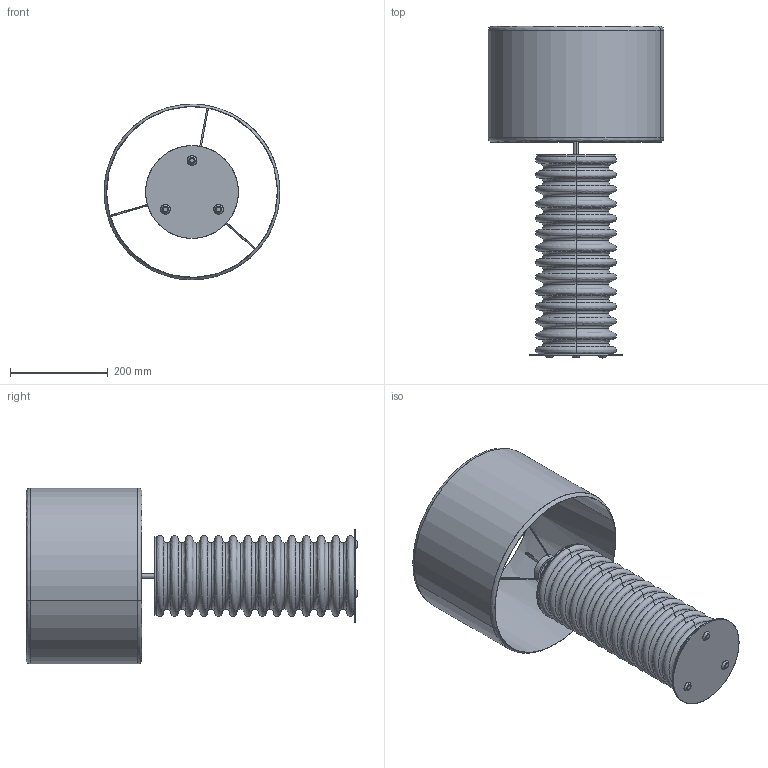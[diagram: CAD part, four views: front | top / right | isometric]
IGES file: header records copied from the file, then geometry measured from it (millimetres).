
Start section: SolidWorks IGES file using analytic representation for surfaces
Global section: file name: C:\Users\Maripaz\Desktop\NAC113\NAC 113.IGS; native system: SolidWorks 2017; preprocessor: SolidWorks 2017; author: Maripaz; date: 190304.174340; units: millimetre
Bounding box: 359.81 x 679.45 x 360 mm (x, y, z)
Surface area: 986084.6 mm2 (no closed solid volume)
Topology: 0 solids, 0 shells, 164 faces, 1588 edges, 1588 vertices
Faces by surface type: bspline 144, revolution 20
